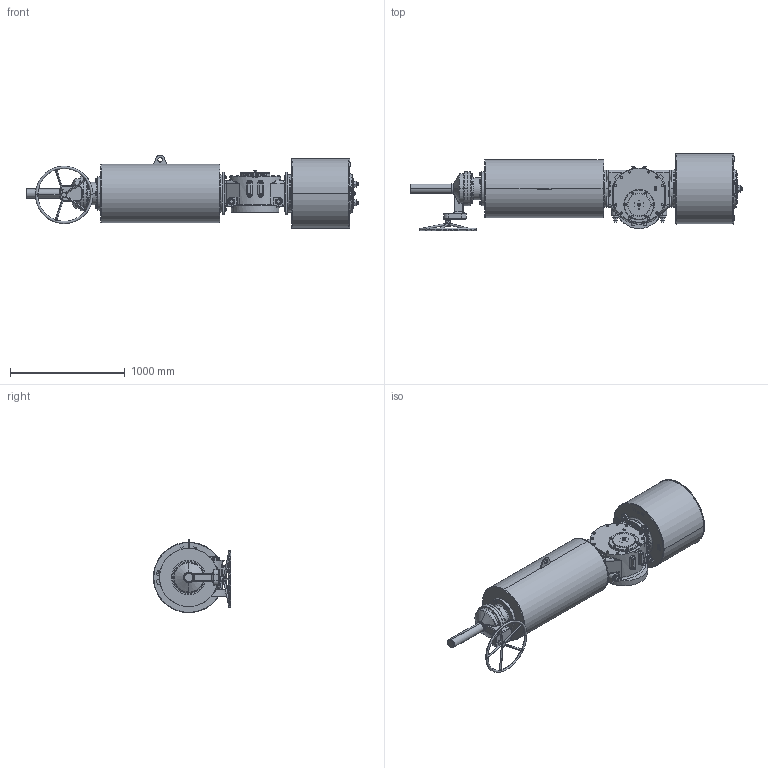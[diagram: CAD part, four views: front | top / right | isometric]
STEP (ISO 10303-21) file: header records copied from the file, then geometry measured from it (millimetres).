
FILE_DESCRIPTION (( 'STEP AP203' ), '1' );
FILE_NAME ('VTS5-600-SR-MG-FO.STEP', '2023-01-01T09:45:25', ( '' ), ( '' ), 'SwSTEP 2.0', 'SolidWorks 2020', '' );
FILE_SCHEMA (( 'CONFIG_CONTROL_DESIGN' ));
Length unit declared in the file: millimetre
Products named in the file (1): VTS5-600-SR-MG-FO
Bounding box: 2895.5 x 673 x 642 mm (x, y, z)
Volume: 445013754.8 mm3; surface area: 6461626.5 mm2
Topology: 4 solids, 15 shells, 2896 faces, 7406 edges, 4630 vertices
Faces by surface type: plane 1149, cylinder 932, cone 652, bspline 123, torus 40
Entity records: 107907 total; most frequent: CARTESIAN_POINT 39171, ORIENTED_EDGE 14576, DIRECTION 14319, EDGE_CURVE 7288, AXIS2_PLACEMENT_3D 5722, VERTEX_POINT 4630, EDGE_LOOP 3236, CIRCLE 2948
